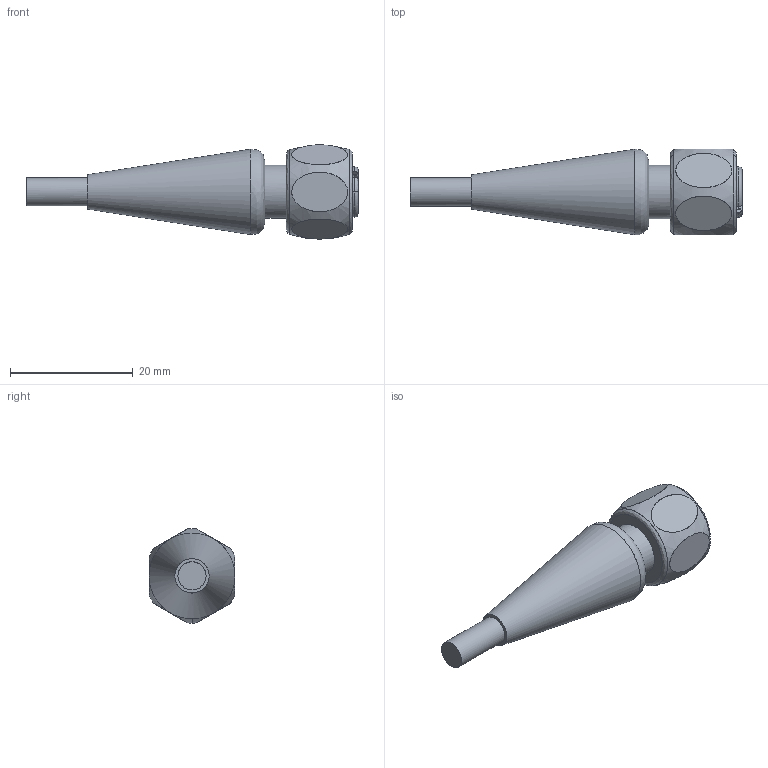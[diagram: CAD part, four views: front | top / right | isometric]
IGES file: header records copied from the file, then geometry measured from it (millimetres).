
Start section: C
Global section: file name: ESG 34AY.igs; native system:  By UGS Corp.; preprocessor: XPlus GENERIC/IGES 3.0; author: Author; organization: Title; date: 20160601.131015; units: millimetre
Bounding box: 54.2 x 14 x 15.39 mm (x, y, z)
Surface area: 2496.1 mm2 (no closed solid volume)
Topology: 0 solids, 0 shells, 82 faces, 426 edges, 426 vertices
Faces by surface type: bspline 82
